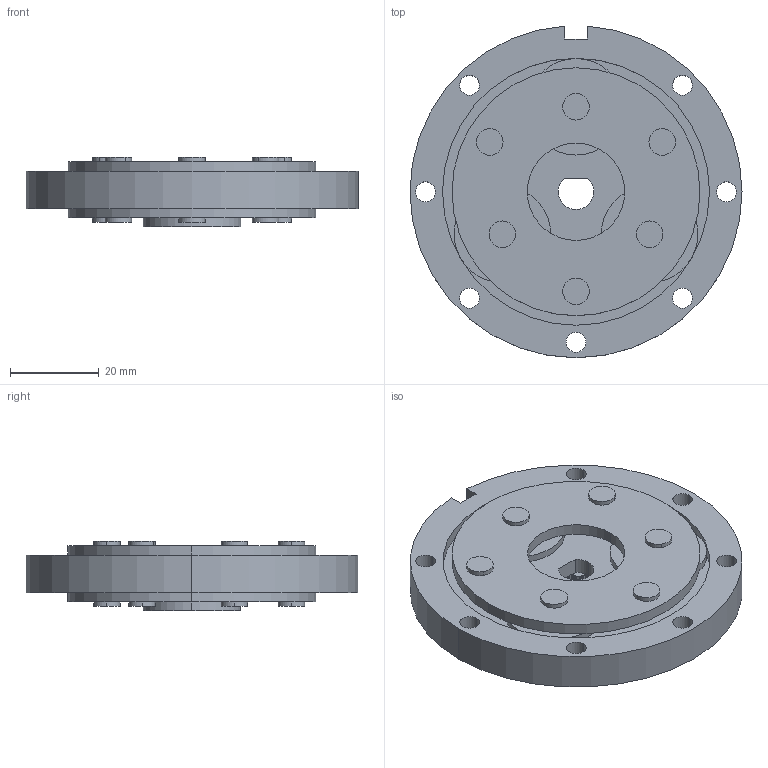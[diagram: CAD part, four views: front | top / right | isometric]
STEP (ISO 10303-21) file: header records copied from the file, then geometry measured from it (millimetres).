
FILE_DESCRIPTION (( 'STEP AP203' ), '1' );
FILE_NAME ('LGU75-4MAD.step', '2021-07-23T02:27:35', ( '' ), ( '' ), 'SwSTEP 2.0', 'SolidWorks 2021', '' );
FILE_SCHEMA (( 'CONFIG_CONTROL_DESIGN' ));
Length unit declared in the file: millimetre
Products named in the file (1): LGU75-4MAD
Bounding box: 75 x 74.92 x 15.7 mm (x, y, z)
Volume: 38048.1 mm3; surface area: 23242.5 mm2
Topology: 1 solids, 1 shells, 267 faces, 720 edges, 480 vertices
Faces by surface type: cylinder 236, plane 31
Entity records: 8799 total; most frequent: DIRECTION 1728, CARTESIAN_POINT 1468, ORIENTED_EDGE 1440, AXIS2_PLACEMENT_3D 740, EDGE_CURVE 720, VERTEX_POINT 480, CIRCLE 472, EDGE_LOOP 320
